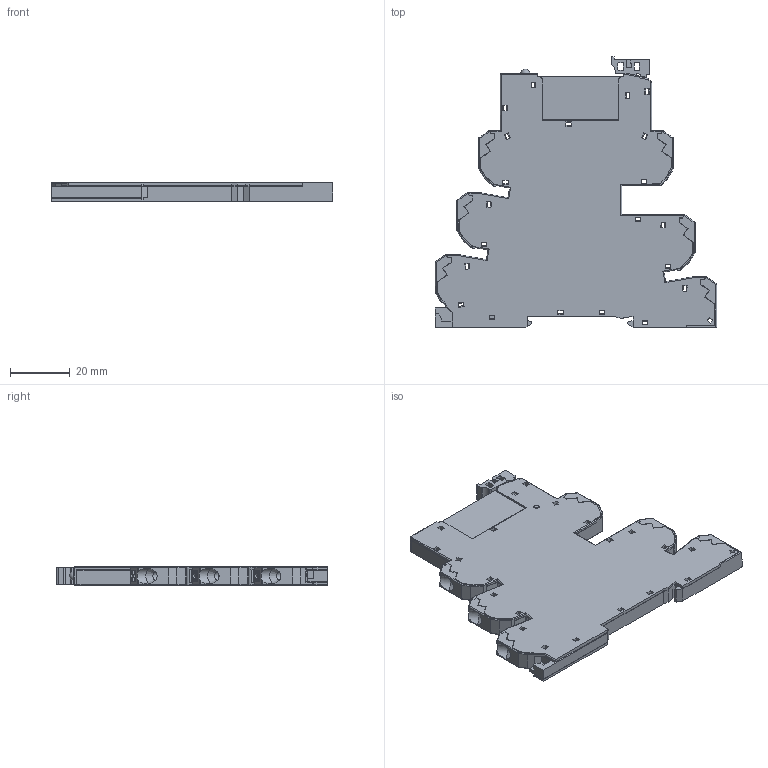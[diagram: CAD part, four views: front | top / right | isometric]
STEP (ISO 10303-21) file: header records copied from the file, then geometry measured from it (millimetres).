
FILE_DESCRIPTION( ( 'Unknown' ), '1' );
FILE_NAME( 'C:/Users/pdellaca/Desktop/Mezzacappa 93.6x push-in/39xx + 936x push-in STP/3971.stp', 'Unknown', ( 'Unknown' ), ( 'Unknown' ), 'PSStep 15.0.49', 'Unknown', ' ' );
FILE_SCHEMA( ( 'AUTOMOTIVE_DESIGN { 1 0 10303 214 1 1 1 1 }' ) );
Length unit declared in the file: millimetre
Products named in the file (22): top; EF00879+
Bounding box: 94.25 x 90.7 x 6.15 mm (x, y, z)
Surface area: 27406.3 mm2 (no closed solid volume)
Topology: 0 solids, 1010 shells, 1010 faces, 6522 edges, 6483 vertices
Faces by surface type: plane 746, cylinder 205, extrusion 20, sphere 17, cone 14, bspline 6, revolution 2
Full cylindrical faces by diameter (mm): 2 x2, 2.8 x6
Entity records: 71553 total; most frequent: CARTESIAN_POINT 16983, DIRECTION 8907, VERTEX_POINT 6467, ORIENTED_EDGE 6460, EDGE_CURVE 6460, VECTOR 5527, LINE 5507, AXIS2_PLACEMENT_3D 1689
